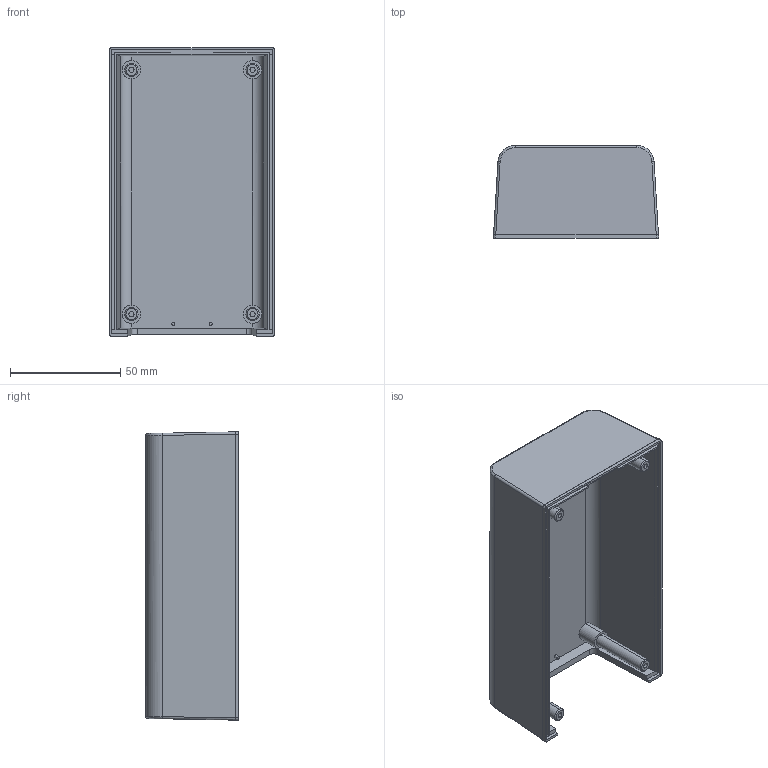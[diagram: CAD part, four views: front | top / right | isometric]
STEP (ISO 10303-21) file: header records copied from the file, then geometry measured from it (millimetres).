
FILE_DESCRIPTION (( 'STEP AP214' ), '1' );
FILE_NAME ('Tapa.STEP', '2016-09-12T16:22:11', ( 'aaa' ), ( '' ), 'SwSTEP 2.0', 'SolidWorks 2013', '' );
FILE_SCHEMA (( 'AUTOMOTIVE_DESIGN' ));
Length unit declared in the file: millimetre
Products named in the file (1): Tapa
Bounding box: 75.12 x 42.2 x 131.2 mm (x, y, z)
Volume: 69926.1 mm3; surface area: 50547.6 mm2
Topology: 1 solids, 1 shells, 124 faces, 306 edges, 194 vertices
Faces by surface type: plane 68, cylinder 40, cone 8, bspline 8
Entity records: 4111 total; most frequent: CARTESIAN_POINT 1113, ORIENTED_EDGE 612, DIRECTION 568, EDGE_CURVE 306, LINE 198, VECTOR 198, VERTEX_POINT 194, AXIS2_PLACEMENT_3D 185
